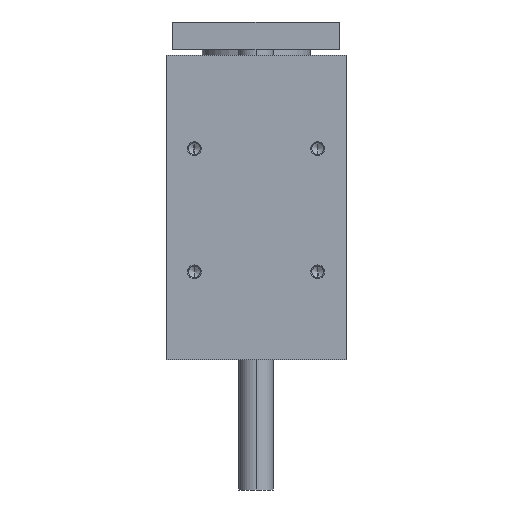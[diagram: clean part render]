
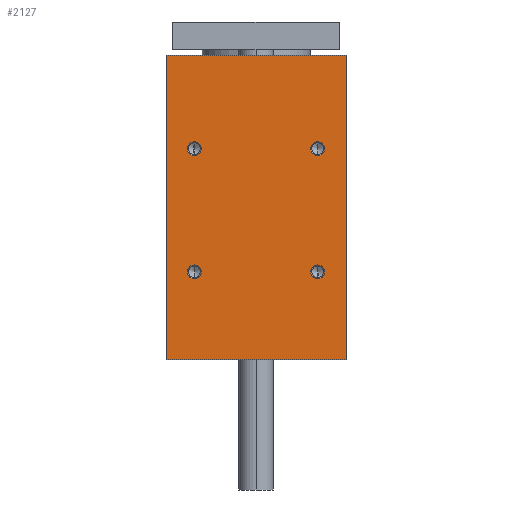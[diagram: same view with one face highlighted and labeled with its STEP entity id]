
A CAD part, left-side view. The second image highlights one B-rep face of the part: STEP entity #2127.
In plain terms, the highlighted planar face has unit normal (-1, 0, 0).
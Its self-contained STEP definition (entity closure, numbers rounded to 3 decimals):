
#17 = CIRCLE ( 'NONE', #2508, 5. ) ;
#108 = EDGE_CURVE ( 'NONE', #2992, #3786, #8230, .T. ) ;
#136 = VERTEX_POINT ( 'NONE', #2130 ) ;
#210 = CARTESIAN_POINT ( 'NONE',  ( -106.5, -44.5, -69.5 ) ) ;
#267 = CARTESIAN_POINT ( 'NONE',  ( -106.5, 44.5, 29.5 ) ) ;
#286 = PLANE ( 'NONE',  #2644 ) ;
#413 = EDGE_LOOP ( 'NONE', ( #960, #1931 ) ) ;
#508 = AXIS2_PLACEMENT_3D ( 'NONE', #6140, #9120, #2445 ) ;
#617 = VERTEX_POINT ( 'NONE', #660 ) ;
#660 = CARTESIAN_POINT ( 'NONE',  ( -106.5, -44.5, 29.5 ) ) ;
#689 = DIRECTION ( 'NONE',  ( 0., 0., 1. ) ) ;
#916 = ORIENTED_EDGE ( 'NONE', *, *, #1788, .T. ) ;
#960 = ORIENTED_EDGE ( 'NONE', *, *, #4689, .T. ) ;
#995 = VECTOR ( 'NONE', #689, 1000. ) ;
#1002 = ORIENTED_EDGE ( 'NONE', *, *, #5699, .T. ) ;
#1017 = FACE_BOUND ( 'NONE', #9170, .T. ) ;
#1081 = AXIS2_PLACEMENT_3D ( 'NONE', #5377, #3869, #7524 ) ;
#1762 = EDGE_CURVE ( 'NONE', #2582, #617, #8278, .T. ) ;
#1788 = EDGE_CURVE ( 'NONE', #7069, #4569, #5045, .T. ) ;
#1843 = CARTESIAN_POINT ( 'NONE',  ( -106.5, 65., 92. ) ) ;
#1857 = DIRECTION ( 'NONE',  ( 0., -1., 0. ) ) ;
#1862 = AXIS2_PLACEMENT_3D ( 'NONE', #3467, #8032, #4313 ) ;
#1893 = EDGE_CURVE ( 'NONE', #8814, #4448, #3094, .T. ) ;
#1919 = CARTESIAN_POINT ( 'NONE',  ( -106.5, -44.5, 19.5 ) ) ;
#1923 = CARTESIAN_POINT ( 'NONE',  ( -106.5, -44.5, 24.5 ) ) ;
#1931 = ORIENTED_EDGE ( 'NONE', *, *, #1893, .T. ) ;
#1937 = CARTESIAN_POINT ( 'NONE',  ( -106.5, -44.5, 24.5 ) ) ;
#1987 = EDGE_CURVE ( 'NONE', #3364, #4569, #2511, .T. ) ;
#2086 = EDGE_CURVE ( 'NONE', #2461, #136, #3567, .T. ) ;
#2127 = ADVANCED_FACE ( 'NONE', ( #5437, #6854, #9108, #1017, #8519 ), #286, .F. ) ;
#2130 = CARTESIAN_POINT ( 'NONE',  ( -106.5, 44.5, 19.5 ) ) ;
#2374 = DIRECTION ( 'NONE',  ( 1., 0., 0. ) ) ;
#2445 = DIRECTION ( 'NONE',  ( 0., 0., -1. ) ) ;
#2461 = VERTEX_POINT ( 'NONE', #267 ) ;
#2508 = AXIS2_PLACEMENT_3D ( 'NONE', #8206, #2374, #2942 ) ;
#2511 = LINE ( 'NONE', #5479, #5884 ) ;
#2564 = DIRECTION ( 'NONE',  ( 0., 0., -1. ) ) ;
#2582 = VERTEX_POINT ( 'NONE', #1919 ) ;
#2585 = CARTESIAN_POINT ( 'NONE',  ( -106.5, -44.5, -64.5 ) ) ;
#2625 = DIRECTION ( 'NONE',  ( 0., 1., 0. ) ) ;
#2644 = AXIS2_PLACEMENT_3D ( 'NONE', #4763, #4611, #2625 ) ;
#2675 = CIRCLE ( 'NONE', #8106, 5. ) ;
#2942 = DIRECTION ( 'NONE',  ( 0., 0., -1. ) ) ;
#2992 = VERTEX_POINT ( 'NONE', #210 ) ;
#3006 = ORIENTED_EDGE ( 'NONE', *, *, #9113, .F. ) ;
#3094 = CIRCLE ( 'NONE', #1081, 5. ) ;
#3360 = DIRECTION ( 'NONE',  ( 0., 0., -1. ) ) ;
#3364 = VERTEX_POINT ( 'NONE', #1843 ) ;
#3407 = CARTESIAN_POINT ( 'NONE',  ( -106.5, 44.5, -59.5 ) ) ;
#3446 = DIRECTION ( 'NONE',  ( 0., 0., -1. ) ) ;
#3467 = CARTESIAN_POINT ( 'NONE',  ( -106.5, -44.5, -64.5 ) ) ;
#3567 = CIRCLE ( 'NONE', #9622, 5. ) ;
#3786 = VERTEX_POINT ( 'NONE', #3874 ) ;
#3837 = CARTESIAN_POINT ( 'NONE',  ( -106.5, 44.5, 24.5 ) ) ;
#3869 = DIRECTION ( 'NONE',  ( 1., 0., 0. ) ) ;
#3874 = CARTESIAN_POINT ( 'NONE',  ( -106.5, -44.5, -59.5 ) ) ;
#4253 = CARTESIAN_POINT ( 'NONE',  ( -106.5, 65., -128. ) ) ;
#4313 = DIRECTION ( 'NONE',  ( 0., 0., -1. ) ) ;
#4448 = VERTEX_POINT ( 'NONE', #3407 ) ;
#4569 = VERTEX_POINT ( 'NONE', #7744 ) ;
#4611 = DIRECTION ( 'NONE',  ( 1., 0., 0. ) ) ;
#4689 = EDGE_CURVE ( 'NONE', #4448, #8814, #17, .T. ) ;
#4763 = CARTESIAN_POINT ( 'NONE',  ( -106.5, 65., -128. ) ) ;
#4779 = ORIENTED_EDGE ( 'NONE', *, *, #8926, .T. ) ;
#4782 = DIRECTION ( 'NONE',  ( 1., 0., 0. ) ) ;
#5045 = LINE ( 'NONE', #7419, #9215 ) ;
#5226 = DIRECTION ( 'NONE',  ( 0., 0., 1. ) ) ;
#5245 = CARTESIAN_POINT ( 'NONE',  ( -106.5, -65., -128. ) ) ;
#5294 = CIRCLE ( 'NONE', #7466, 5. ) ;
#5313 = EDGE_LOOP ( 'NONE', ( #916, #7527, #3006, #4779 ) ) ;
#5377 = CARTESIAN_POINT ( 'NONE',  ( -106.5, 44.5, -64.5 ) ) ;
#5437 = FACE_OUTER_BOUND ( 'NONE', #5313, .T. ) ;
#5479 = CARTESIAN_POINT ( 'NONE',  ( -106.5, 65., 92. ) ) ;
#5667 = CARTESIAN_POINT ( 'NONE',  ( -106.5, 65., -128. ) ) ;
#5699 = EDGE_CURVE ( 'NONE', #3786, #2992, #5294, .T. ) ;
#5753 = CARTESIAN_POINT ( 'NONE',  ( -106.5, 44.5, -69.5 ) ) ;
#5884 = VECTOR ( 'NONE', #8460, 1000. ) ;
#5955 = VECTOR ( 'NONE', #1857, 1000. ) ;
#6140 = CARTESIAN_POINT ( 'NONE',  ( -106.5, 44.5, 24.5 ) ) ;
#6468 = ORIENTED_EDGE ( 'NONE', *, *, #2086, .T. ) ;
#6570 = EDGE_LOOP ( 'NONE', ( #6468, #9195 ) ) ;
#6695 = EDGE_CURVE ( 'NONE', #136, #2461, #7500, .T. ) ;
#6785 = ORIENTED_EDGE ( 'NONE', *, *, #108, .T. ) ;
#6804 = DIRECTION ( 'NONE',  ( 1., 0., 0. ) ) ;
#6854 = FACE_BOUND ( 'NONE', #7695, .T. ) ;
#7069 = VERTEX_POINT ( 'NONE', #5245 ) ;
#7110 = DIRECTION ( 'NONE',  ( 1., 0., 0. ) ) ;
#7125 = ORIENTED_EDGE ( 'NONE', *, *, #7481, .T. ) ;
#7193 = DIRECTION ( 'NONE',  ( 1., 0., 0. ) ) ;
#7286 = ORIENTED_EDGE ( 'NONE', *, *, #1762, .T. ) ;
#7401 = LINE ( 'NONE', #8727, #995 ) ;
#7419 = CARTESIAN_POINT ( 'NONE',  ( -106.5, -65., -128. ) ) ;
#7466 = AXIS2_PLACEMENT_3D ( 'NONE', #2585, #7110, #3360 ) ;
#7481 = EDGE_CURVE ( 'NONE', #617, #2582, #2675, .T. ) ;
#7500 = CIRCLE ( 'NONE', #508, 5. ) ;
#7524 = DIRECTION ( 'NONE',  ( 0., 0., -1. ) ) ;
#7527 = ORIENTED_EDGE ( 'NONE', *, *, #1987, .F. ) ;
#7575 = VERTEX_POINT ( 'NONE', #4253 ) ;
#7695 = EDGE_LOOP ( 'NONE', ( #1002, #6785 ) ) ;
#7739 = DIRECTION ( 'NONE',  ( 0., 0., -1. ) ) ;
#7744 = CARTESIAN_POINT ( 'NONE',  ( -106.5, -65., 92. ) ) ;
#8032 = DIRECTION ( 'NONE',  ( 1., 0., 0. ) ) ;
#8106 = AXIS2_PLACEMENT_3D ( 'NONE', #1923, #4782, #2564 ) ;
#8206 = CARTESIAN_POINT ( 'NONE',  ( -106.5, 44.5, -64.5 ) ) ;
#8230 = CIRCLE ( 'NONE', #1862, 5. ) ;
#8278 = CIRCLE ( 'NONE', #9519, 5. ) ;
#8460 = DIRECTION ( 'NONE',  ( 0., -1., 0. ) ) ;
#8519 = FACE_BOUND ( 'NONE', #6570, .T. ) ;
#8681 = LINE ( 'NONE', #5667, #5955 ) ;
#8727 = CARTESIAN_POINT ( 'NONE',  ( -106.5, 65., -128. ) ) ;
#8814 = VERTEX_POINT ( 'NONE', #5753 ) ;
#8926 = EDGE_CURVE ( 'NONE', #7575, #7069, #8681, .T. ) ;
#9108 = FACE_BOUND ( 'NONE', #413, .T. ) ;
#9113 = EDGE_CURVE ( 'NONE', #7575, #3364, #7401, .T. ) ;
#9120 = DIRECTION ( 'NONE',  ( 1., 0., 0. ) ) ;
#9170 = EDGE_LOOP ( 'NONE', ( #7125, #7286 ) ) ;
#9195 = ORIENTED_EDGE ( 'NONE', *, *, #6695, .T. ) ;
#9215 = VECTOR ( 'NONE', #5226, 1000. ) ;
#9519 = AXIS2_PLACEMENT_3D ( 'NONE', #1937, #7193, #3446 ) ;
#9622 = AXIS2_PLACEMENT_3D ( 'NONE', #3837, #6804, #7739 ) ;
